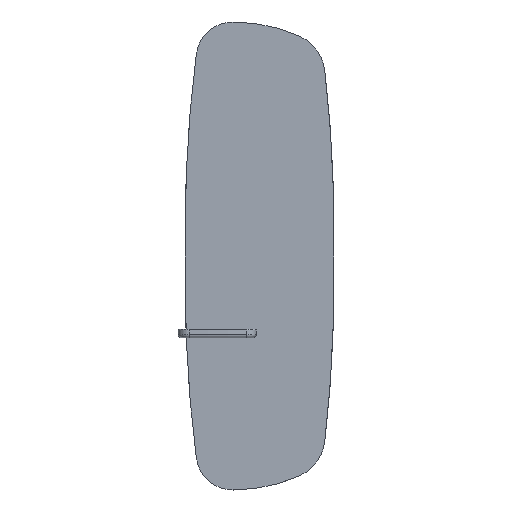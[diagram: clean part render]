
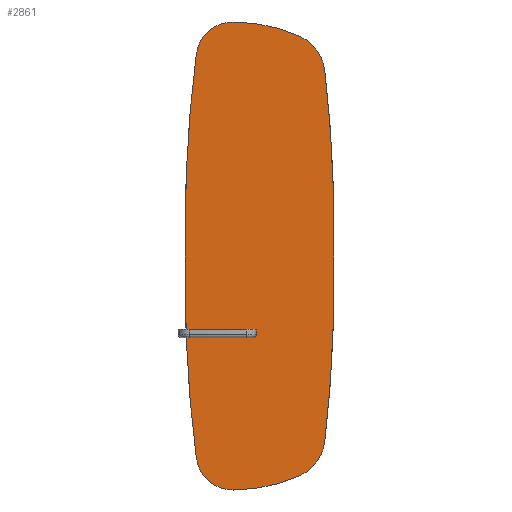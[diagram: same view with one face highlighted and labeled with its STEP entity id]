
A CAD part, top view. The second image highlights one B-rep face of the part: STEP entity #2861.
In plain terms, the highlighted planar face has unit normal (0, 0, 1).
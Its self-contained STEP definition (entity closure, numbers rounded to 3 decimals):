
#5 = DIRECTION ( 'NONE',  ( 1., 0., 0. ) ) ;
#7 = FACE_BOUND ( 'NONE', #1118, .T. ) ;
#28 = DIRECTION ( 'NONE',  ( 1., 0., 0. ) ) ;
#33 = ORIENTED_EDGE ( 'NONE', *, *, #3829, .F. ) ;
#51 = VERTEX_POINT ( 'NONE', #5065 ) ;
#52 = VERTEX_POINT ( 'NONE', #810 ) ;
#58 = VERTEX_POINT ( 'NONE', #2390 ) ;
#66 = ORIENTED_EDGE ( 'NONE', *, *, #4446, .F. ) ;
#79 = CARTESIAN_POINT ( 'NONE',  ( 3060.921, 1346.428, 4. ) ) ;
#118 = EDGE_CURVE ( 'NONE', #2260, #4040, #2122, .T. ) ;
#149 = CIRCLE ( 'NONE', #3945, 95. ) ;
#155 = EDGE_CURVE ( 'NONE', #4040, #3382, #3661, .T. ) ;
#225 = EDGE_CURVE ( 'NONE', #3850, #51, #298, .T. ) ;
#298 = CIRCLE ( 'NONE', #2123, 3500. ) ;
#344 = DIRECTION ( 'NONE',  ( 1., 0., 0. ) ) ;
#351 = DIRECTION ( 'NONE',  ( 1., 0., 0. ) ) ;
#370 = DIRECTION ( 'NONE',  ( 0., 0., 1. ) ) ;
#383 = ORIENTED_EDGE ( 'NONE', *, *, #1531, .F. ) ;
#445 = DIRECTION ( 'NONE',  ( 0., 0., 1. ) ) ;
#466 = AXIS2_PLACEMENT_3D ( 'NONE', #3736, #3412, #1403 ) ;
#467 = DIRECTION ( 'NONE',  ( 0., 0., -1. ) ) ;
#544 = VERTEX_POINT ( 'NONE', #1053 ) ;
#554 = EDGE_CURVE ( 'NONE', #52, #4594, #4383, .T. ) ;
#555 = AXIS2_PLACEMENT_3D ( 'NONE', #2881, #855, #840 ) ;
#596 = CIRCLE ( 'NONE', #466, 95. ) ;
#597 = CARTESIAN_POINT ( 'NONE',  ( -410.516, 758.442, 4. ) ) ;
#609 = CIRCLE ( 'NONE', #2933, 6. ) ;
#654 = EDGE_LOOP ( 'NONE', ( #3614, #1689, #2133, #3101, #3061, #2935, #33, #3563, #3430, #66, #3434, #2994 ) ) ;
#662 = AXIS2_PLACEMENT_3D ( 'NONE', #988, #1778, #4912 ) ;
#670 = DIRECTION ( 'NONE',  ( 0., 0., 1. ) ) ;
#733 = DIRECTION ( 'NONE',  ( 0., 0., 1. ) ) ;
#757 = CARTESIAN_POINT ( 'NONE',  ( -376.291, 1075.554, 4. ) ) ;
#784 = AXIS2_PLACEMENT_3D ( 'NONE', #4332, #370, #351 ) ;
#810 = CARTESIAN_POINT ( 'NONE',  ( -81.15, 1751.383, 4. ) ) ;
#840 = DIRECTION ( 'NONE',  ( -1., 0., 0. ) ) ;
#855 = DIRECTION ( 'NONE',  ( 0., 0., -1. ) ) ;
#988 = CARTESIAN_POINT ( 'NONE',  ( -3557.644, 1204.679, 4. ) ) ;
#1053 = CARTESIAN_POINT ( 'NONE',  ( -145.454, 712.059, 4. ) ) ;
#1062 = CARTESIAN_POINT ( 'NONE',  ( -336.291, 1075.554, 4. ) ) ;
#1118 = EDGE_LOOP ( 'NONE', ( #383, #4977 ) ) ;
#1137 = DIRECTION ( 'NONE',  ( 1., 0., 0. ) ) ;
#1241 = DIRECTION ( 'NONE',  ( 0., 0., 1. ) ) ;
#1277 = FACE_OUTER_BOUND ( 'NONE', #654, .T. ) ;
#1307 = VERTEX_POINT ( 'NONE', #1346 ) ;
#1336 = AXIS2_PLACEMENT_3D ( 'NONE', #2720, #2323, #344 ) ;
#1346 = CARTESIAN_POINT ( 'NONE',  ( -330.291, 1075.554, 4. ) ) ;
#1357 = VERTEX_POINT ( 'NONE', #4471 ) ;
#1403 = DIRECTION ( 'NONE',  ( -1., 0., 0. ) ) ;
#1416 = EDGE_CURVE ( 'NONE', #2067, #3766, #4260, .T. ) ;
#1481 = EDGE_CURVE ( 'NONE', #4467, #1307, #4900, .T. ) ;
#1503 = CARTESIAN_POINT ( 'NONE',  ( -382.291, 1075.554, 4. ) ) ;
#1524 = CIRCLE ( 'NONE', #3821, 3500. ) ;
#1531 = EDGE_CURVE ( 'NONE', #3766, #2067, #609, .T. ) ;
#1539 = EDGE_CURVE ( 'NONE', #58, #544, #1798, .T. ) ;
#1636 = AXIS2_PLACEMENT_3D ( 'NONE', #2147, #1720, #4901 ) ;
#1689 = ORIENTED_EDGE ( 'NONE', *, *, #118, .T. ) ;
#1720 = DIRECTION ( 'NONE',  ( 0., 0., 1. ) ) ;
#1759 = EDGE_CURVE ( 'NONE', #58, #2949, #1975, .T. ) ;
#1778 = DIRECTION ( 'NONE',  ( 0., 0., 1. ) ) ;
#1798 = CIRCLE ( 'NONE', #3190, 110. ) ;
#1912 = DIRECTION ( 'NONE',  ( -1., 0., 0. ) ) ;
#1927 = DIRECTION ( 'NONE',  ( 1., 0., 0. ) ) ;
#1975 = CIRCLE ( 'NONE', #662, 3500. ) ;
#2033 = CARTESIAN_POINT ( 'NONE',  ( -336.291, 1075.554, 4. ) ) ;
#2061 = EDGE_CURVE ( 'NONE', #3850, #1357, #149, .T. ) ;
#2067 = VERTEX_POINT ( 'NONE', #1503 ) ;
#2071 = CIRCLE ( 'NONE', #3793, 418. ) ;
#2088 = ORIENTED_EDGE ( 'NONE', *, *, #2171, .F. ) ;
#2122 = CIRCLE ( 'NONE', #784, 3500. ) ;
#2123 = AXIS2_PLACEMENT_3D ( 'NONE', #4401, #467, #3254 ) ;
#2133 = ORIENTED_EDGE ( 'NONE', *, *, #155, .T. ) ;
#2147 = CARTESIAN_POINT ( 'NONE',  ( -316.291, 1457.554, 4. ) ) ;
#2171 = EDGE_CURVE ( 'NONE', #1307, #4467, #4432, .T. ) ;
#2189 = DIRECTION ( 'NONE',  ( -1., 0., 0. ) ) ;
#2260 = VERTEX_POINT ( 'NONE', #3652 ) ;
#2263 = FACE_BOUND ( 'NONE', #3847, .T. ) ;
#2323 = DIRECTION ( 'NONE',  ( 0., 0., 1. ) ) ;
#2378 = AXIS2_PLACEMENT_3D ( 'NONE', #79, #445, #5 ) ;
#2390 = CARTESIAN_POINT ( 'NONE',  ( -81.15, 799.725, 4. ) ) ;
#2391 = DIRECTION ( 'NONE',  ( -1., 0., 0. ) ) ;
#2423 = AXIS2_PLACEMENT_3D ( 'NONE', #4143, #4561, #2189 ) ;
#2720 = CARTESIAN_POINT ( 'NONE',  ( -376.291, 1075.554, 4. ) ) ;
#2723 = DIRECTION ( 'NONE',  ( 0., 0., 1. ) ) ;
#2749 = ORIENTED_EDGE ( 'NONE', *, *, #1481, .F. ) ;
#2764 = EDGE_CURVE ( 'NONE', #4594, #3486, #3394, .T. ) ;
#2861 = ADVANCED_FACE ( 'NONE', ( #2263, #7, #1277 ), #2961, .F. ) ;
#2881 = CARTESIAN_POINT ( 'NONE',  ( -3557.644, 1346.428, 4. ) ) ;
#2901 = EDGE_CURVE ( 'NONE', #2260, #3486, #596, .T. ) ;
#2933 = AXIS2_PLACEMENT_3D ( 'NONE', #757, #733, #1927 ) ;
#2935 = ORIENTED_EDGE ( 'NONE', *, *, #2061, .T. ) ;
#2948 = EDGE_CURVE ( 'NONE', #51, #3382, #1524, .T. ) ;
#2949 = VERTEX_POINT ( 'NONE', #5006 ) ;
#2961 = PLANE ( 'NONE',  #2423 ) ;
#2994 = ORIENTED_EDGE ( 'NONE', *, *, #2764, .T. ) ;
#3046 = CARTESIAN_POINT ( 'NONE',  ( -316.291, 1875.554, 4. ) ) ;
#3057 = DIRECTION ( 'NONE',  ( 1., 0., 0. ) ) ;
#3061 = ORIENTED_EDGE ( 'NONE', *, *, #225, .F. ) ;
#3101 = ORIENTED_EDGE ( 'NONE', *, *, #2948, .F. ) ;
#3190 = AXIS2_PLACEMENT_3D ( 'NONE', #3562, #4758, #2391 ) ;
#3254 = DIRECTION ( 'NONE',  ( -1., 0., 0. ) ) ;
#3382 = VERTEX_POINT ( 'NONE', #3697 ) ;
#3394 = CIRCLE ( 'NONE', #1636, 418. ) ;
#3412 = DIRECTION ( 'NONE',  ( 0., 0., -1. ) ) ;
#3430 = ORIENTED_EDGE ( 'NONE', *, *, #1759, .T. ) ;
#3434 = ORIENTED_EDGE ( 'NONE', *, *, #554, .T. ) ;
#3486 = VERTEX_POINT ( 'NONE', #3046 ) ;
#3502 = DIRECTION ( 'NONE',  ( 0., 0., 1. ) ) ;
#3562 = CARTESIAN_POINT ( 'NONE',  ( -190.411, 812.452, 4. ) ) ;
#3563 = ORIENTED_EDGE ( 'NONE', *, *, #1539, .F. ) ;
#3600 = CARTESIAN_POINT ( 'NONE',  ( -439.079, 1346.428, 4. ) ) ;
#3614 = ORIENTED_EDGE ( 'NONE', *, *, #2901, .F. ) ;
#3652 = CARTESIAN_POINT ( 'NONE',  ( -410.516, 1792.666, 4. ) ) ;
#3654 = CARTESIAN_POINT ( 'NONE',  ( -342.291, 1075.554, 4. ) ) ;
#3661 = CIRCLE ( 'NONE', #2378, 3500. ) ;
#3685 = AXIS2_PLACEMENT_3D ( 'NONE', #3884, #3502, #3057 ) ;
#3697 = CARTESIAN_POINT ( 'NONE',  ( -438.362, 1275.554, 4. ) ) ;
#3736 = CARTESIAN_POINT ( 'NONE',  ( -316.291, 1780.554, 4. ) ) ;
#3766 = VERTEX_POINT ( 'NONE', #4132 ) ;
#3773 = CARTESIAN_POINT ( 'NONE',  ( -316.291, 1093.554, 4. ) ) ;
#3793 = AXIS2_PLACEMENT_3D ( 'NONE', #3773, #4564, #4589 ) ;
#3809 = CIRCLE ( 'NONE', #555, 3500. ) ;
#3817 = AXIS2_PLACEMENT_3D ( 'NONE', #1062, #670, #3832 ) ;
#3821 = AXIS2_PLACEMENT_3D ( 'NONE', #4680, #4241, #1912 ) ;
#3829 = EDGE_CURVE ( 'NONE', #544, #1357, #2071, .T. ) ;
#3832 = DIRECTION ( 'NONE',  ( 1., 0., 0. ) ) ;
#3847 = EDGE_LOOP ( 'NONE', ( #2088, #2749 ) ) ;
#3850 = VERTEX_POINT ( 'NONE', #597 ) ;
#3884 = CARTESIAN_POINT ( 'NONE',  ( -190.411, 1738.655, 4. ) ) ;
#3886 = CARTESIAN_POINT ( 'NONE',  ( -316.291, 770.554, 4. ) ) ;
#3945 = AXIS2_PLACEMENT_3D ( 'NONE', #3886, #2723, #1137 ) ;
#4040 = VERTEX_POINT ( 'NONE', #3600 ) ;
#4132 = CARTESIAN_POINT ( 'NONE',  ( -370.291, 1075.554, 4. ) ) ;
#4138 = CARTESIAN_POINT ( 'NONE',  ( -145.454, 1839.049, 4. ) ) ;
#4143 = CARTESIAN_POINT ( 'NONE',  ( -316.291, 1619.054, 4. ) ) ;
#4241 = DIRECTION ( 'NONE',  ( 0., 0., -1. ) ) ;
#4260 = CIRCLE ( 'NONE', #1336, 6. ) ;
#4332 = CARTESIAN_POINT ( 'NONE',  ( 3060.921, 1346.428, 4. ) ) ;
#4383 = CIRCLE ( 'NONE', #3685, 110. ) ;
#4401 = CARTESIAN_POINT ( 'NONE',  ( 3060.921, 1204.679, 4. ) ) ;
#4432 = CIRCLE ( 'NONE', #4756, 6. ) ;
#4446 = EDGE_CURVE ( 'NONE', #52, #2949, #3809, .T. ) ;
#4467 = VERTEX_POINT ( 'NONE', #3654 ) ;
#4471 = CARTESIAN_POINT ( 'NONE',  ( -316.291, 675.554, 4. ) ) ;
#4561 = DIRECTION ( 'NONE',  ( 0., 0., -1. ) ) ;
#4564 = DIRECTION ( 'NONE',  ( 0., 0., -1. ) ) ;
#4589 = DIRECTION ( 'NONE',  ( -1., 0., 0. ) ) ;
#4594 = VERTEX_POINT ( 'NONE', #4138 ) ;
#4680 = CARTESIAN_POINT ( 'NONE',  ( 3060.921, 1204.679, 4. ) ) ;
#4756 = AXIS2_PLACEMENT_3D ( 'NONE', #2033, #1241, #28 ) ;
#4758 = DIRECTION ( 'NONE',  ( 0., 0., -1. ) ) ;
#4900 = CIRCLE ( 'NONE', #3817, 6. ) ;
#4901 = DIRECTION ( 'NONE',  ( 1., 0., 0. ) ) ;
#4912 = DIRECTION ( 'NONE',  ( 1., 0., 0. ) ) ;
#4977 = ORIENTED_EDGE ( 'NONE', *, *, #1416, .F. ) ;
#5006 = CARTESIAN_POINT ( 'NONE',  ( -58.362, 1275.554, 4. ) ) ;
#5065 = CARTESIAN_POINT ( 'NONE',  ( -439.079, 1204.679, 4. ) ) ;
